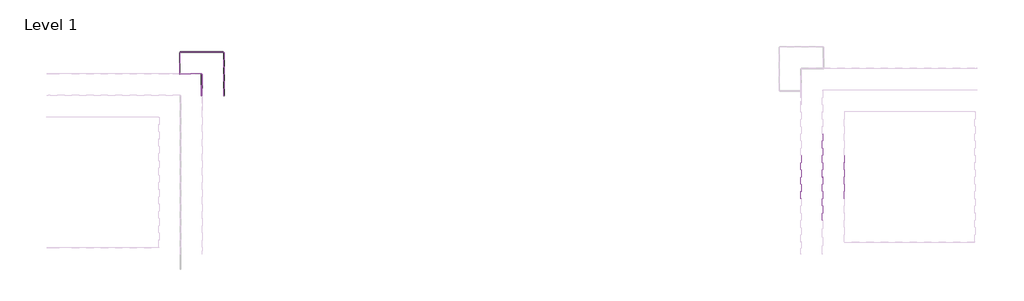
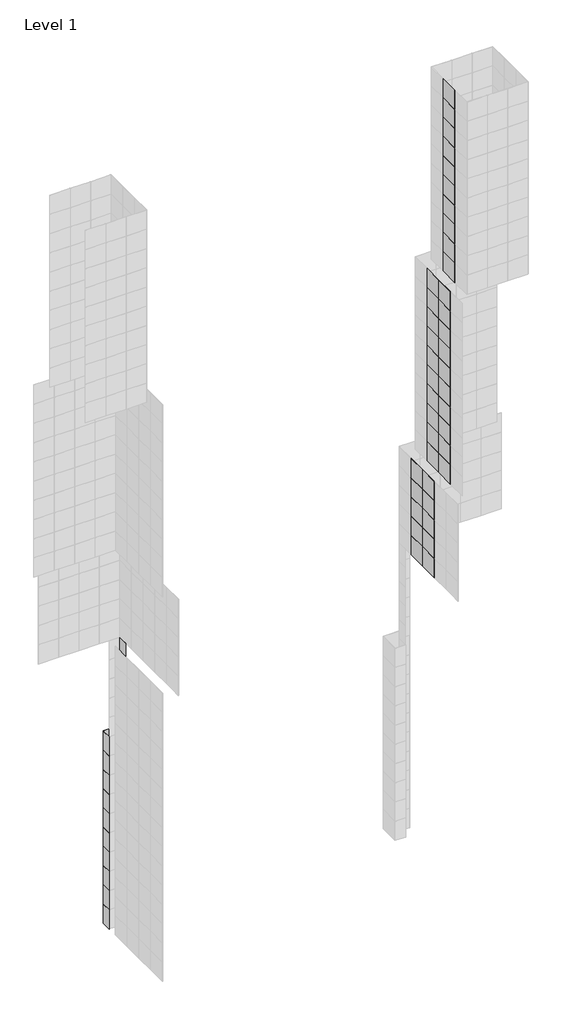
# One storey, part 11 of 15: 135 plates.
"""IFC4 building model written with IfcOpenShell, lengths in millimetres."""

from ifc_helpers import new_model, si_unit, origin, place, context, project, spatial, transform, mapped, element, save
from components import system_panel_glazed_9c75bc08, system_panel_glazed_aa64d645

model = new_model("IFC4")

# Units and contexts
model_context = context("Model", 3, world=origin())
ifc_project = project(units=[si_unit("LENGTHUNIT", "METRE", prefix="MILLI")], contexts=[model_context])

# Site, building, storey
site = spatial("IfcSite", under=ifc_project)
building = spatial("IfcBuilding", under=site)
storey = spatial("IfcBuildingStorey", under=building, Name="Level 1", Elevation=0.0)

# Plates
placement = place(None, origin())
system_panel_glazed_shape = system_panel_glazed_9c75bc08(model_context)
element("IfcPlate", 1, ObjectType="System Panel : Glazed", at=placement, inside=storey, context=model_context, shape_type="MappedRepresentation", body=[
    mapped(system_panel_glazed_shape, transform((-5599.4161695, 8735.9495511, 0.0), x_axis=(0.0, 1.0, 0.0), y_axis=(-1.0, 0.0, 0.0), z_axis=(0.0, 0.0, 1.0))),
])
element("IfcPlate", 2, ObjectType="System Panel : Glazed", at=placement, inside=storey, context=model_context, shape_type="MappedRepresentation", body=[
    mapped(system_panel_glazed_shape, transform((-5599.4161695, 8735.9495511, 3048.0), x_axis=(0.0, 1.0, 0.0), y_axis=(-1.0, 0.0, 0.0), z_axis=(0.0, 0.0, 1.0))),
])
element("IfcPlate", 3, ObjectType="System Panel : Glazed", at=placement, inside=storey, context=model_context, shape_type="MappedRepresentation", body=[
    mapped(system_panel_glazed_shape, transform((-5599.4161695, 8735.9495511, 6096.0), x_axis=(0.0, 1.0, 0.0), y_axis=(-1.0, 0.0, 0.0), z_axis=(0.0, 0.0, 1.0))),
])
element("IfcPlate", 4, ObjectType="System Panel : Glazed", at=placement, inside=storey, context=model_context, shape_type="MappedRepresentation", body=[
    mapped(system_panel_glazed_shape, transform((-5599.4161695, 8735.9495511, 9144.0), x_axis=(0.0, 1.0, 0.0), y_axis=(-1.0, 0.0, 0.0), z_axis=(0.0, 0.0, 1.0))),
])
element("IfcPlate", 5, ObjectType="System Panel : Glazed", at=placement, inside=storey, context=model_context, shape_type="MappedRepresentation", body=[
    mapped(system_panel_glazed_shape, transform((-5599.4161695, 8735.9495511, 12192.0), x_axis=(0.0, 1.0, 0.0), y_axis=(-1.0, 0.0, 0.0), z_axis=(0.0, 0.0, 1.0))),
])
element("IfcPlate", 6, ObjectType="System Panel : Glazed", at=placement, inside=storey, context=model_context, shape_type="MappedRepresentation", body=[
    mapped(system_panel_glazed_shape, transform((-5599.4161695, 8735.9495511, 15240.0), x_axis=(0.0, 1.0, 0.0), y_axis=(-1.0, 0.0, 0.0), z_axis=(0.0, 0.0, 1.0))),
])
element("IfcPlate", 7, ObjectType="System Panel : Glazed", at=placement, inside=storey, context=model_context, shape_type="MappedRepresentation", body=[
    mapped(system_panel_glazed_shape, transform((-5599.4161695, 8735.9495511, 18288.0), x_axis=(0.0, 1.0, 0.0), y_axis=(-1.0, 0.0, 0.0), z_axis=(0.0, 0.0, 1.0))),
])
element("IfcPlate", 8, ObjectType="System Panel : Glazed", at=placement, inside=storey, context=model_context, shape_type="MappedRepresentation", body=[
    mapped(system_panel_glazed_shape, transform((-5599.4161695, 8735.9495511, 21336.0), x_axis=(0.0, 1.0, 0.0), y_axis=(-1.0, 0.0, 0.0), z_axis=(0.0, 0.0, 1.0))),
])
element("IfcPlate", 9, ObjectType="System Panel : Glazed", at=placement, inside=storey, context=model_context, shape_type="MappedRepresentation", body=[
    mapped(system_panel_glazed_shape, transform((-5599.4161695, 8735.9495511, 24384.0), x_axis=(0.0, 1.0, 0.0), y_axis=(-1.0, 0.0, 0.0), z_axis=(0.0, 0.0, 1.0))),
])
element("IfcPlate", 10, ObjectType="System Panel : Glazed", at=placement, inside=storey, context=model_context, shape_type="MappedRepresentation", body=[
    mapped(system_panel_glazed_shape, transform((-5599.4161695, 8735.9495511, 27432.0), x_axis=(0.0, 1.0, 0.0), y_axis=(-1.0, 0.0, 0.0), z_axis=(0.0, 0.0, 1.0))),
])
element("IfcPlate", 11, ObjectType="System Panel : Glazed", at=placement, inside=storey, context=model_context, shape_type="MappedRepresentation", body=[
    mapped(system_panel_glazed_shape, transform((-5599.4161695, 8735.9495511, 30480.0), x_axis=(0.0, 1.0, 0.0), y_axis=(-1.0, 0.0, 0.0), z_axis=(0.0, 0.0, 1.0))),
])
element("IfcPlate", 12, ObjectType="System Panel : Glazed", at=placement, inside=storey, context=model_context, shape_type="MappedRepresentation", body=[
    mapped(system_panel_glazed_shape, transform((-5599.4161695, 8735.9495511, 33528.0), x_axis=(0.0, 1.0, 0.0), y_axis=(-1.0, 0.0, 0.0), z_axis=(0.0, 0.0, 1.0))),
])
element("IfcPlate", 13, ObjectType="System Panel : Glazed", at=placement, inside=storey, context=model_context, shape_type="MappedRepresentation", body=[
    mapped(system_panel_glazed_shape, transform((-5599.4161695, 8735.9495511, 36576.0), x_axis=(0.0, 1.0, 0.0), y_axis=(-1.0, 0.0, 0.0), z_axis=(0.0, 0.0, 1.0))),
])
element("IfcPlate", 14, ObjectType="System Panel : Glazed", at=placement, inside=storey, context=model_context, shape_type="MappedRepresentation", body=[
    mapped(system_panel_glazed_shape, transform((-5599.4161695, 8735.9495511, 39624.0), x_axis=(0.0, 1.0, 0.0), y_axis=(-1.0, 0.0, 0.0), z_axis=(0.0, 0.0, 1.0))),
])
element("IfcPlate", 15, ObjectType="System Panel : Glazed", at=placement, inside=storey, context=model_context, shape_type="MappedRepresentation", body=[
    mapped(system_panel_glazed_shape, transform((-5599.4161695, 8735.9495511, 42672.0), x_axis=(0.0, 1.0, 0.0), y_axis=(-1.0, 0.0, 0.0), z_axis=(0.0, 0.0, 1.0))),
])
element("IfcPlate", 16, ObjectType="System Panel : Glazed", at=placement, inside=storey, context=model_context, shape_type="MappedRepresentation", body=[
    mapped(system_panel_glazed_shape, transform((-6361.4161695, 9497.9495511, 9144.0), x_axis=(-1.0, 0.0, 0.0), y_axis=(0.0, -1.0, 0.0), z_axis=(0.0, 0.0, 1.0))),
])
element("IfcPlate", 17, ObjectType="System Panel : Glazed", at=placement, inside=storey, context=model_context, shape_type="MappedRepresentation", body=[
    mapped(system_panel_glazed_shape, transform((-6361.4161695, 9497.9495511, 12192.0), x_axis=(-1.0, 0.0, 0.0), y_axis=(0.0, -1.0, 0.0), z_axis=(0.0, 0.0, 1.0))),
])
element("IfcPlate", 18, ObjectType="System Panel : Glazed", at=placement, inside=storey, context=model_context, shape_type="MappedRepresentation", body=[
    mapped(system_panel_glazed_shape, transform((-6361.4161695, 9497.9495511, 15240.0), x_axis=(-1.0, 0.0, 0.0), y_axis=(0.0, -1.0, 0.0), z_axis=(0.0, 0.0, 1.0))),
])
element("IfcPlate", 19, ObjectType="System Panel : Glazed", at=placement, inside=storey, context=model_context, shape_type="MappedRepresentation", body=[
    mapped(system_panel_glazed_shape, transform((-6361.4161695, 9497.9495511, 18288.0), x_axis=(-1.0, 0.0, 0.0), y_axis=(0.0, -1.0, 0.0), z_axis=(0.0, 0.0, 1.0))),
])
element("IfcPlate", 20, ObjectType="System Panel : Glazed", at=placement, inside=storey, context=model_context, shape_type="MappedRepresentation", body=[
    mapped(system_panel_glazed_shape, transform((-6361.4161695, 9497.9495511, 21336.0), x_axis=(-1.0, 0.0, 0.0), y_axis=(0.0, -1.0, 0.0), z_axis=(0.0, 0.0, 1.0))),
])
element("IfcPlate", 21, ObjectType="System Panel : Glazed", at=placement, inside=storey, context=model_context, shape_type="MappedRepresentation", body=[
    mapped(system_panel_glazed_shape, transform((-6361.4161695, 9497.9495511, 24384.0), x_axis=(-1.0, 0.0, 0.0), y_axis=(0.0, -1.0, 0.0), z_axis=(0.0, 0.0, 1.0))),
])
element("IfcPlate", 22, ObjectType="System Panel : Glazed", at=placement, inside=storey, context=model_context, shape_type="MappedRepresentation", body=[
    mapped(system_panel_glazed_shape, transform((-6361.4161695, 9497.9495511, 27432.0), x_axis=(-1.0, 0.0, 0.0), y_axis=(0.0, -1.0, 0.0), z_axis=(0.0, 0.0, 1.0))),
])
element("IfcPlate", 23, ObjectType="System Panel : Glazed", at=placement, inside=storey, context=model_context, shape_type="MappedRepresentation", body=[
    mapped(system_panel_glazed_shape, transform((-6361.4161695, 9497.9495511, 30480.0), x_axis=(-1.0, 0.0, 0.0), y_axis=(0.0, -1.0, 0.0), z_axis=(0.0, 0.0, 1.0))),
])
element("IfcPlate", 24, ObjectType="System Panel : Glazed", at=placement, inside=storey, context=model_context, shape_type="MappedRepresentation", body=[
    mapped(system_panel_glazed_shape, transform((-6361.4161695, 9497.9495511, 33528.0), x_axis=(-1.0, 0.0, 0.0), y_axis=(0.0, -1.0, 0.0), z_axis=(0.0, 0.0, 1.0))),
])
element("IfcPlate", 25, ObjectType="System Panel : Glazed", at=placement, inside=storey, context=model_context, shape_type="MappedRepresentation", body=[
    mapped(system_panel_glazed_shape, transform((-6361.4161695, 9497.9495511, 36576.0), x_axis=(-1.0, 0.0, 0.0), y_axis=(0.0, -1.0, 0.0), z_axis=(0.0, 0.0, 1.0))),
])
element("IfcPlate", 26, ObjectType="System Panel : Glazed", at=placement, inside=storey, context=model_context, shape_type="MappedRepresentation", body=[
    mapped(system_panel_glazed_shape, transform((-6361.4161695, 9497.9495511, 39624.0), x_axis=(-1.0, 0.0, 0.0), y_axis=(0.0, -1.0, 0.0), z_axis=(0.0, 0.0, 1.0))),
])
element("IfcPlate", 27, ObjectType="System Panel : Glazed", at=placement, inside=storey, context=model_context, shape_type="MappedRepresentation", body=[
    mapped(system_panel_glazed_shape, transform((-6361.4161695, 9497.9495511, 42672.0), x_axis=(-1.0, 0.0, 0.0), y_axis=(0.0, -1.0, 0.0), z_axis=(0.0, 0.0, 1.0))),
])
element("IfcPlate", 28, ObjectType="System Panel : Glazed", at=placement, inside=storey, context=model_context, shape_type="MappedRepresentation", body=[
    mapped(system_panel_glazed_shape, transform((-5599.4161695, 8735.9495511, 0.0), x_axis=(0.0, -1.0, 0.0), y_axis=(1.0, 0.0, 0.0), z_axis=(0.0, 0.0, 1.0))),
])
element("IfcPlate", 29, ObjectType="System Panel : Glazed", at=placement, inside=storey, context=model_context, shape_type="MappedRepresentation", body=[
    mapped(system_panel_glazed_shape, transform((-5599.4161695, 8735.9495511, 3048.0), x_axis=(0.0, -1.0, 0.0), y_axis=(1.0, 0.0, 0.0), z_axis=(0.0, 0.0, 1.0))),
])
element("IfcPlate", 30, ObjectType="System Panel : Glazed", at=placement, inside=storey, context=model_context, shape_type="MappedRepresentation", body=[
    mapped(system_panel_glazed_shape, transform((-5599.4161695, 8735.9495511, 6096.0), x_axis=(0.0, -1.0, 0.0), y_axis=(1.0, 0.0, 0.0), z_axis=(0.0, 0.0, 1.0))),
])
element("IfcPlate", 31, ObjectType="System Panel : Glazed", at=placement, inside=storey, context=model_context, shape_type="MappedRepresentation", body=[
    mapped(system_panel_glazed_shape, transform((-5599.4161695, 8735.9495511, 9144.0), x_axis=(0.0, -1.0, 0.0), y_axis=(1.0, 0.0, 0.0), z_axis=(0.0, 0.0, 1.0))),
])
element("IfcPlate", 32, ObjectType="System Panel : Glazed", at=placement, inside=storey, context=model_context, shape_type="MappedRepresentation", body=[
    mapped(system_panel_glazed_shape, transform((-5599.4161695, 8735.9495511, 12192.0), x_axis=(0.0, -1.0, 0.0), y_axis=(1.0, 0.0, 0.0), z_axis=(0.0, 0.0, 1.0))),
])
element("IfcPlate", 33, ObjectType="System Panel : Glazed", at=placement, inside=storey, context=model_context, shape_type="MappedRepresentation", body=[
    mapped(system_panel_glazed_shape, transform((-5599.4161695, 8735.9495511, 15240.0), x_axis=(0.0, -1.0, 0.0), y_axis=(1.0, 0.0, 0.0), z_axis=(0.0, 0.0, 1.0))),
])
element("IfcPlate", 34, ObjectType="System Panel : Glazed", at=placement, inside=storey, context=model_context, shape_type="MappedRepresentation", body=[
    mapped(system_panel_glazed_shape, transform((-5599.4161695, 8735.9495511, 18288.0), x_axis=(0.0, -1.0, 0.0), y_axis=(1.0, 0.0, 0.0), z_axis=(0.0, 0.0, 1.0))),
])
element("IfcPlate", 35, ObjectType="System Panel : Glazed", at=placement, inside=storey, context=model_context, shape_type="MappedRepresentation", body=[
    mapped(system_panel_glazed_shape, transform((-5599.4161695, 8735.9495511, 21336.0), x_axis=(0.0, -1.0, 0.0), y_axis=(1.0, 0.0, 0.0), z_axis=(0.0, 0.0, 1.0))),
])
element("IfcPlate", 36, ObjectType="System Panel : Glazed", at=placement, inside=storey, context=model_context, shape_type="MappedRepresentation", body=[
    mapped(system_panel_glazed_shape, transform((-5599.4161695, 8735.9495511, 24384.0), x_axis=(0.0, -1.0, 0.0), y_axis=(1.0, 0.0, 0.0), z_axis=(0.0, 0.0, 1.0))),
])
element("IfcPlate", 37, ObjectType="System Panel : Glazed", at=placement, inside=storey, context=model_context, shape_type="MappedRepresentation", body=[
    mapped(system_panel_glazed_shape, transform((-5599.4161695, 8735.9495511, 27432.0), x_axis=(0.0, -1.0, 0.0), y_axis=(1.0, 0.0, 0.0), z_axis=(0.0, 0.0, 1.0))),
])
element("IfcPlate", 38, ObjectType="System Panel : Glazed", at=placement, inside=storey, context=model_context, shape_type="MappedRepresentation", body=[
    mapped(system_panel_glazed_shape, transform((-7123.4161695, 10259.9495511, 0.0), x_axis=(0.0, -1.0, 0.0), y_axis=(1.0, 0.0, 0.0), z_axis=(0.0, 0.0, 1.0))),
])
element("IfcPlate", 39, ObjectType="System Panel : Glazed", at=placement, inside=storey, context=model_context, shape_type="MappedRepresentation", body=[
    mapped(system_panel_glazed_shape, transform((-7123.4161695, 10259.9495511, 3048.0), x_axis=(0.0, -1.0, 0.0), y_axis=(1.0, 0.0, 0.0), z_axis=(0.0, 0.0, 1.0))),
])
element("IfcPlate", 40, ObjectType="System Panel : Glazed", at=placement, inside=storey, context=model_context, shape_type="MappedRepresentation", body=[
    mapped(system_panel_glazed_shape, transform((-7123.4161695, 10259.9495511, 6096.0), x_axis=(0.0, -1.0, 0.0), y_axis=(1.0, 0.0, 0.0), z_axis=(0.0, 0.0, 1.0))),
])
element("IfcPlate", 41, ObjectType="System Panel : Glazed", at=placement, inside=storey, context=model_context, shape_type="MappedRepresentation", body=[
    mapped(system_panel_glazed_shape, transform((-7123.4161695, 10259.9495511, 9144.0), x_axis=(0.0, -1.0, 0.0), y_axis=(1.0, 0.0, 0.0), z_axis=(0.0, 0.0, 1.0))),
])
element("IfcPlate", 42, ObjectType="System Panel : Glazed", at=placement, inside=storey, context=model_context, shape_type="MappedRepresentation", body=[
    mapped(system_panel_glazed_shape, transform((-7123.4161695, 10259.9495511, 12192.0), x_axis=(0.0, -1.0, 0.0), y_axis=(1.0, 0.0, 0.0), z_axis=(0.0, 0.0, 1.0))),
])
element("IfcPlate", 43, ObjectType="System Panel : Glazed", at=placement, inside=storey, context=model_context, shape_type="MappedRepresentation", body=[
    mapped(system_panel_glazed_shape, transform((-7123.4161695, 10259.9495511, 15240.0), x_axis=(0.0, -1.0, 0.0), y_axis=(1.0, 0.0, 0.0), z_axis=(0.0, 0.0, 1.0))),
])
element("IfcPlate", 44, ObjectType="System Panel : Glazed", at=placement, inside=storey, context=model_context, shape_type="MappedRepresentation", body=[
    mapped(system_panel_glazed_shape, transform((-7123.4161695, 10259.9495511, 18288.0), x_axis=(0.0, -1.0, 0.0), y_axis=(1.0, 0.0, 0.0), z_axis=(0.0, 0.0, 1.0))),
])
element("IfcPlate", 45, ObjectType="System Panel : Glazed", at=placement, inside=storey, context=model_context, shape_type="MappedRepresentation", body=[
    mapped(system_panel_glazed_shape, transform((-7123.4161695, 10259.9495511, 21336.0), x_axis=(0.0, -1.0, 0.0), y_axis=(1.0, 0.0, 0.0), z_axis=(0.0, 0.0, 1.0))),
])
element("IfcPlate", 46, ObjectType="System Panel : Glazed", at=placement, inside=storey, context=model_context, shape_type="MappedRepresentation", body=[
    mapped(system_panel_glazed_shape, transform((-7123.4161695, 10259.9495511, 24384.0), x_axis=(0.0, -1.0, 0.0), y_axis=(1.0, 0.0, 0.0), z_axis=(0.0, 0.0, 1.0))),
])
element("IfcPlate", 47, ObjectType="System Panel : Glazed", at=placement, inside=storey, context=model_context, shape_type="MappedRepresentation", body=[
    mapped(system_panel_glazed_shape, transform((-7123.4161695, 10259.9495511, 27432.0), x_axis=(0.0, -1.0, 0.0), y_axis=(1.0, 0.0, 0.0), z_axis=(0.0, 0.0, 1.0))),
])
system_panel_glazed_2_shape = system_panel_glazed_aa64d645(model_context)
element("IfcPlate", 48, ObjectType="System Panel : Glazed", at=placement, inside=storey, context=model_context, shape_type="MappedRepresentation", body=[
    mapped(system_panel_glazed_2_shape, transform((-5599.4161695, 11021.9495511, 0.0), x_axis=(-1.0, 0.0, 0.0), y_axis=(0.0, -1.0, 0.0), z_axis=(0.0, 0.0, 1.0))),
])
element("IfcPlate", 49, ObjectType="System Panel : Glazed", at=placement, inside=storey, context=model_context, shape_type="MappedRepresentation", body=[
    mapped(system_panel_glazed_2_shape, transform((-5599.4161695, 11021.9495511, 3048.0), x_axis=(-1.0, 0.0, 0.0), y_axis=(0.0, -1.0, 0.0), z_axis=(0.0, 0.0, 1.0))),
])
element("IfcPlate", 50, ObjectType="System Panel : Glazed", at=placement, inside=storey, context=model_context, shape_type="MappedRepresentation", body=[
    mapped(system_panel_glazed_2_shape, transform((-5599.4161695, 11021.9495511, 6096.0), x_axis=(-1.0, 0.0, 0.0), y_axis=(0.0, -1.0, 0.0), z_axis=(0.0, 0.0, 1.0))),
])
element("IfcPlate", 51, ObjectType="System Panel : Glazed", at=placement, inside=storey, context=model_context, shape_type="MappedRepresentation", body=[
    mapped(system_panel_glazed_2_shape, transform((-5599.4161695, 11021.9495511, 9144.0), x_axis=(-1.0, 0.0, 0.0), y_axis=(0.0, -1.0, 0.0), z_axis=(0.0, 0.0, 1.0))),
])
element("IfcPlate", 52, ObjectType="System Panel : Glazed", at=placement, inside=storey, context=model_context, shape_type="MappedRepresentation", body=[
    mapped(system_panel_glazed_2_shape, transform((-5599.4161695, 11021.9495511, 12192.0), x_axis=(-1.0, 0.0, 0.0), y_axis=(0.0, -1.0, 0.0), z_axis=(0.0, 0.0, 1.0))),
])
element("IfcPlate", 53, ObjectType="System Panel : Glazed", at=placement, inside=storey, context=model_context, shape_type="MappedRepresentation", body=[
    mapped(system_panel_glazed_2_shape, transform((-5599.4161695, 11021.9495511, 15240.0), x_axis=(-1.0, 0.0, 0.0), y_axis=(0.0, -1.0, 0.0), z_axis=(0.0, 0.0, 1.0))),
])
element("IfcPlate", 54, ObjectType="System Panel : Glazed", at=placement, inside=storey, context=model_context, shape_type="MappedRepresentation", body=[
    mapped(system_panel_glazed_2_shape, transform((-5599.4161695, 11021.9495511, 18288.0), x_axis=(-1.0, 0.0, 0.0), y_axis=(0.0, -1.0, 0.0), z_axis=(0.0, 0.0, 1.0))),
])
element("IfcPlate", 55, ObjectType="System Panel : Glazed", at=placement, inside=storey, context=model_context, shape_type="MappedRepresentation", body=[
    mapped(system_panel_glazed_2_shape, transform((-5599.4161695, 11021.9495511, 21336.0), x_axis=(-1.0, 0.0, 0.0), y_axis=(0.0, -1.0, 0.0), z_axis=(0.0, 0.0, 1.0))),
])
element("IfcPlate", 56, ObjectType="System Panel : Glazed", at=placement, inside=storey, context=model_context, shape_type="MappedRepresentation", body=[
    mapped(system_panel_glazed_2_shape, transform((-5599.4161695, 11021.9495511, 24384.0), x_axis=(-1.0, 0.0, 0.0), y_axis=(0.0, -1.0, 0.0), z_axis=(0.0, 0.0, 1.0))),
])
element("IfcPlate", 57, ObjectType="System Panel : Glazed", at=placement, inside=storey, context=model_context, shape_type="MappedRepresentation", body=[
    mapped(system_panel_glazed_2_shape, transform((-5599.4161695, 11021.9495511, 27432.0), x_axis=(-1.0, 0.0, 0.0), y_axis=(0.0, -1.0, 0.0), z_axis=(0.0, 0.0, 1.0))),
])
element("IfcPlate", 58, ObjectType="System Panel : Glazed", at=placement, inside=storey, context=model_context, shape_type="MappedRepresentation", body=[
    mapped(system_panel_glazed_2_shape, transform((-5599.4161695, 11021.9495511, 0.0), x_axis=(-1.0, 0.0, 0.0), y_axis=(0.0, -1.0, 0.0), z_axis=(0.0, 0.0, 1.0))),
])
element("IfcPlate", 59, ObjectType="System Panel : Glazed", at=placement, inside=storey, context=model_context, shape_type="MappedRepresentation", body=[
    mapped(system_panel_glazed_2_shape, transform((-5599.4161695, 11021.9495511, 3048.0), x_axis=(-1.0, 0.0, 0.0), y_axis=(0.0, -1.0, 0.0), z_axis=(0.0, 0.0, 1.0))),
])
element("IfcPlate", 60, ObjectType="System Panel : Glazed", at=placement, inside=storey, context=model_context, shape_type="MappedRepresentation", body=[
    mapped(system_panel_glazed_2_shape, transform((-5599.4161695, 11021.9495511, 6096.0), x_axis=(-1.0, 0.0, 0.0), y_axis=(0.0, -1.0, 0.0), z_axis=(0.0, 0.0, 1.0))),
])
element("IfcPlate", 61, ObjectType="System Panel : Glazed", at=placement, inside=storey, context=model_context, shape_type="MappedRepresentation", body=[
    mapped(system_panel_glazed_2_shape, transform((-5599.4161695, 11021.9495511, 9144.0), x_axis=(-1.0, 0.0, 0.0), y_axis=(0.0, -1.0, 0.0), z_axis=(0.0, 0.0, 1.0))),
])
element("IfcPlate", 62, ObjectType="System Panel : Glazed", at=placement, inside=storey, context=model_context, shape_type="MappedRepresentation", body=[
    mapped(system_panel_glazed_2_shape, transform((-5599.4161695, 11021.9495511, 12192.0), x_axis=(-1.0, 0.0, 0.0), y_axis=(0.0, -1.0, 0.0), z_axis=(0.0, 0.0, 1.0))),
])
element("IfcPlate", 63, ObjectType="System Panel : Glazed", at=placement, inside=storey, context=model_context, shape_type="MappedRepresentation", body=[
    mapped(system_panel_glazed_2_shape, transform((-5599.4161695, 11021.9495511, 15240.0), x_axis=(-1.0, 0.0, 0.0), y_axis=(0.0, -1.0, 0.0), z_axis=(0.0, 0.0, 1.0))),
])
element("IfcPlate", 64, ObjectType="System Panel : Glazed", at=placement, inside=storey, context=model_context, shape_type="MappedRepresentation", body=[
    mapped(system_panel_glazed_2_shape, transform((-5599.4161695, 11021.9495511, 18288.0), x_axis=(-1.0, 0.0, 0.0), y_axis=(0.0, -1.0, 0.0), z_axis=(0.0, 0.0, 1.0))),
])
element("IfcPlate", 65, ObjectType="System Panel : Glazed", at=placement, inside=storey, context=model_context, shape_type="MappedRepresentation", body=[
    mapped(system_panel_glazed_2_shape, transform((-5599.4161695, 11021.9495511, 21336.0), x_axis=(-1.0, 0.0, 0.0), y_axis=(0.0, -1.0, 0.0), z_axis=(0.0, 0.0, 1.0))),
])
element("IfcPlate", 66, ObjectType="System Panel : Glazed", at=placement, inside=storey, context=model_context, shape_type="MappedRepresentation", body=[
    mapped(system_panel_glazed_2_shape, transform((-5599.4161695, 11021.9495511, 24384.0), x_axis=(-1.0, 0.0, 0.0), y_axis=(0.0, -1.0, 0.0), z_axis=(0.0, 0.0, 1.0))),
])
element("IfcPlate", 67, ObjectType="System Panel : Glazed", at=placement, inside=storey, context=model_context, shape_type="MappedRepresentation", body=[
    mapped(system_panel_glazed_2_shape, transform((-5599.4161695, 11021.9495511, 27432.0), x_axis=(-1.0, 0.0, 0.0), y_axis=(0.0, -1.0, 0.0), z_axis=(0.0, 0.0, 1.0))),
])
element("IfcPlate", 68, ObjectType="System Panel : Glazed", at=placement, inside=storey, context=model_context, shape_type="MappedRepresentation", body=[
    mapped(system_panel_glazed_2_shape, transform((-4075.4161695, 9497.9495511, 0.0), x_axis=(0.0, 1.0, 0.0), y_axis=(-1.0, 0.0, 0.0), z_axis=(0.0, 0.0, 1.0))),
])
element("IfcPlate", 69, ObjectType="System Panel : Glazed", at=placement, inside=storey, context=model_context, shape_type="MappedRepresentation", body=[
    mapped(system_panel_glazed_2_shape, transform((-4075.4161695, 9497.9495511, 3048.0), x_axis=(0.0, 1.0, 0.0), y_axis=(-1.0, 0.0, 0.0), z_axis=(0.0, 0.0, 1.0))),
])
element("IfcPlate", 70, ObjectType="System Panel : Glazed", at=placement, inside=storey, context=model_context, shape_type="MappedRepresentation", body=[
    mapped(system_panel_glazed_2_shape, transform((-4075.4161695, 9497.9495511, 6096.0), x_axis=(0.0, 1.0, 0.0), y_axis=(-1.0, 0.0, 0.0), z_axis=(0.0, 0.0, 1.0))),
])
element("IfcPlate", 71, ObjectType="System Panel : Glazed", at=placement, inside=storey, context=model_context, shape_type="MappedRepresentation", body=[
    mapped(system_panel_glazed_2_shape, transform((-4075.4161695, 9497.9495511, 9144.0), x_axis=(0.0, 1.0, 0.0), y_axis=(-1.0, 0.0, 0.0), z_axis=(0.0, 0.0, 1.0))),
])
element("IfcPlate", 72, ObjectType="System Panel : Glazed", at=placement, inside=storey, context=model_context, shape_type="MappedRepresentation", body=[
    mapped(system_panel_glazed_2_shape, transform((-4075.4161695, 9497.9495511, 12192.0), x_axis=(0.0, 1.0, 0.0), y_axis=(-1.0, 0.0, 0.0), z_axis=(0.0, 0.0, 1.0))),
])
element("IfcPlate", 73, ObjectType="System Panel : Glazed", at=placement, inside=storey, context=model_context, shape_type="MappedRepresentation", body=[
    mapped(system_panel_glazed_2_shape, transform((-4075.4161695, 9497.9495511, 15240.0), x_axis=(0.0, 1.0, 0.0), y_axis=(-1.0, 0.0, 0.0), z_axis=(0.0, 0.0, 1.0))),
])
element("IfcPlate", 74, ObjectType="System Panel : Glazed", at=placement, inside=storey, context=model_context, shape_type="MappedRepresentation", body=[
    mapped(system_panel_glazed_2_shape, transform((-4075.4161695, 9497.9495511, 18288.0), x_axis=(0.0, 1.0, 0.0), y_axis=(-1.0, 0.0, 0.0), z_axis=(0.0, 0.0, 1.0))),
])
element("IfcPlate", 75, ObjectType="System Panel : Glazed", at=placement, inside=storey, context=model_context, shape_type="MappedRepresentation", body=[
    mapped(system_panel_glazed_2_shape, transform((-4075.4161695, 9497.9495511, 21336.0), x_axis=(0.0, 1.0, 0.0), y_axis=(-1.0, 0.0, 0.0), z_axis=(0.0, 0.0, 1.0))),
])
element("IfcPlate", 76, ObjectType="System Panel : Glazed", at=placement, inside=storey, context=model_context, shape_type="MappedRepresentation", body=[
    mapped(system_panel_glazed_2_shape, transform((-4075.4161695, 9497.9495511, 24384.0), x_axis=(0.0, 1.0, 0.0), y_axis=(-1.0, 0.0, 0.0), z_axis=(0.0, 0.0, 1.0))),
])
element("IfcPlate", 77, ObjectType="System Panel : Glazed", at=placement, inside=storey, context=model_context, shape_type="MappedRepresentation", body=[
    mapped(system_panel_glazed_2_shape, transform((-4075.4161695, 9497.9495511, 27432.0), x_axis=(0.0, 1.0, 0.0), y_axis=(-1.0, 0.0, 0.0), z_axis=(0.0, 0.0, 1.0))),
])
element("IfcPlate", 78, ObjectType="System Panel : Glazed", at=placement, inside=storey, context=model_context, shape_type="MappedRepresentation", body=[
    mapped(system_panel_glazed_2_shape, transform((-5599.4161695, 11021.9495511, 0.0), x_axis=(-1.0, 0.0, 0.0), y_axis=(0.0, -1.0, 0.0), z_axis=(0.0, 0.0, 1.0))),
])
element("IfcPlate", 79, ObjectType="System Panel : Glazed", at=placement, inside=storey, context=model_context, shape_type="MappedRepresentation", body=[
    mapped(system_panel_glazed_2_shape, transform((-5599.4161695, 11021.9495511, 3048.0), x_axis=(-1.0, 0.0, 0.0), y_axis=(0.0, -1.0, 0.0), z_axis=(0.0, 0.0, 1.0))),
])
element("IfcPlate", 80, ObjectType="System Panel : Glazed", at=placement, inside=storey, context=model_context, shape_type="MappedRepresentation", body=[
    mapped(system_panel_glazed_2_shape, transform((-5599.4161695, 11021.9495511, 6096.0), x_axis=(-1.0, 0.0, 0.0), y_axis=(0.0, -1.0, 0.0), z_axis=(0.0, 0.0, 1.0))),
])
element("IfcPlate", 81, ObjectType="System Panel : Glazed", at=placement, inside=storey, context=model_context, shape_type="MappedRepresentation", body=[
    mapped(system_panel_glazed_2_shape, transform((-5599.4161695, 11021.9495511, 9144.0), x_axis=(-1.0, 0.0, 0.0), y_axis=(0.0, -1.0, 0.0), z_axis=(0.0, 0.0, 1.0))),
])
element("IfcPlate", 82, ObjectType="System Panel : Glazed", at=placement, inside=storey, context=model_context, shape_type="MappedRepresentation", body=[
    mapped(system_panel_glazed_2_shape, transform((-5599.4161695, 11021.9495511, 12192.0), x_axis=(-1.0, 0.0, 0.0), y_axis=(0.0, -1.0, 0.0), z_axis=(0.0, 0.0, 1.0))),
])
element("IfcPlate", 83, ObjectType="System Panel : Glazed", at=placement, inside=storey, context=model_context, shape_type="MappedRepresentation", body=[
    mapped(system_panel_glazed_2_shape, transform((-5599.4161695, 11021.9495511, 15240.0), x_axis=(-1.0, 0.0, 0.0), y_axis=(0.0, -1.0, 0.0), z_axis=(0.0, 0.0, 1.0))),
])
element("IfcPlate", 84, ObjectType="System Panel : Glazed", at=placement, inside=storey, context=model_context, shape_type="MappedRepresentation", body=[
    mapped(system_panel_glazed_2_shape, transform((-5599.4161695, 11021.9495511, 18288.0), x_axis=(-1.0, 0.0, 0.0), y_axis=(0.0, -1.0, 0.0), z_axis=(0.0, 0.0, 1.0))),
])
element("IfcPlate", 85, ObjectType="System Panel : Glazed", at=placement, inside=storey, context=model_context, shape_type="MappedRepresentation", body=[
    mapped(system_panel_glazed_2_shape, transform((-5599.4161695, 11021.9495511, 21336.0), x_axis=(-1.0, 0.0, 0.0), y_axis=(0.0, -1.0, 0.0), z_axis=(0.0, 0.0, 1.0))),
])
element("IfcPlate", 86, ObjectType="System Panel : Glazed", at=placement, inside=storey, context=model_context, shape_type="MappedRepresentation", body=[
    mapped(system_panel_glazed_2_shape, transform((-5599.4161695, 11021.9495511, 24384.0), x_axis=(-1.0, 0.0, 0.0), y_axis=(0.0, -1.0, 0.0), z_axis=(0.0, 0.0, 1.0))),
])
element("IfcPlate", 87, ObjectType="System Panel : Glazed", at=placement, inside=storey, context=model_context, shape_type="MappedRepresentation", body=[
    mapped(system_panel_glazed_2_shape, transform((-5599.4161695, 11021.9495511, 27432.0), x_axis=(-1.0, 0.0, 0.0), y_axis=(0.0, -1.0, 0.0), z_axis=(0.0, 0.0, 1.0))),
])
element("IfcPlate", 88, ObjectType="System Panel : Glazed", at=placement, inside=storey, context=model_context, shape_type="MappedRepresentation", body=[
    mapped(system_panel_glazed_2_shape, transform((36594.2903978, 5303.0904402, 45720.0), x_axis=(0.0, -1.0, 0.0), y_axis=(1.0, 0.0, 0.0), z_axis=(0.0, 0.0, 1.0))),
])
element("IfcPlate", 89, ObjectType="System Panel : Glazed", at=placement, inside=storey, context=model_context, shape_type="MappedRepresentation", body=[
    mapped(system_panel_glazed_2_shape, transform((36594.2903978, 2255.0904402, 45720.0), x_axis=(0.0, -1.0, 0.0), y_axis=(1.0, 0.0, 0.0), z_axis=(0.0, 0.0, 1.0))),
])
element("IfcPlate", 90, ObjectType="System Panel : Glazed", at=placement, inside=storey, context=model_context, shape_type="MappedRepresentation", body=[
    mapped(system_panel_glazed_2_shape, transform((36594.2903978, 5303.0904402, 48768.0), x_axis=(0.0, -1.0, 0.0), y_axis=(1.0, 0.0, 0.0), z_axis=(0.0, 0.0, 1.0))),
])
element("IfcPlate", 91, ObjectType="System Panel : Glazed", at=placement, inside=storey, context=model_context, shape_type="MappedRepresentation", body=[
    mapped(system_panel_glazed_2_shape, transform((36594.2903978, 2255.0904402, 48768.0), x_axis=(0.0, -1.0, 0.0), y_axis=(1.0, 0.0, 0.0), z_axis=(0.0, 0.0, 1.0))),
])
element("IfcPlate", 92, ObjectType="System Panel : Glazed", at=placement, inside=storey, context=model_context, shape_type="MappedRepresentation", body=[
    mapped(system_panel_glazed_2_shape, transform((36594.2903978, 5303.0904402, 51816.0), x_axis=(0.0, -1.0, 0.0), y_axis=(1.0, 0.0, 0.0), z_axis=(0.0, 0.0, 1.0))),
])
element("IfcPlate", 93, ObjectType="System Panel : Glazed", at=placement, inside=storey, context=model_context, shape_type="MappedRepresentation", body=[
    mapped(system_panel_glazed_2_shape, transform((36594.2903978, 2255.0904402, 51816.0), x_axis=(0.0, -1.0, 0.0), y_axis=(1.0, 0.0, 0.0), z_axis=(0.0, 0.0, 1.0))),
])
element("IfcPlate", 94, ObjectType="System Panel : Glazed", at=placement, inside=storey, context=model_context, shape_type="MappedRepresentation", body=[
    mapped(system_panel_glazed_2_shape, transform((36594.2903978, 5303.0904402, 54864.0), x_axis=(0.0, -1.0, 0.0), y_axis=(1.0, 0.0, 0.0), z_axis=(0.0, 0.0, 1.0))),
])
element("IfcPlate", 95, ObjectType="System Panel : Glazed", at=placement, inside=storey, context=model_context, shape_type="MappedRepresentation", body=[
    mapped(system_panel_glazed_2_shape, transform((36594.2903978, 2255.0904402, 54864.0), x_axis=(0.0, -1.0, 0.0), y_axis=(1.0, 0.0, 0.0), z_axis=(0.0, 0.0, 1.0))),
])
element("IfcPlate", 96, ObjectType="System Panel : Glazed", at=placement, inside=storey, context=model_context, shape_type="MappedRepresentation", body=[
    mapped(system_panel_glazed_2_shape, transform((36594.2903978, 5303.0904402, 57912.0), x_axis=(0.0, -1.0, 0.0), y_axis=(1.0, 0.0, 0.0), z_axis=(0.0, 0.0, 1.0))),
])
element("IfcPlate", 97, ObjectType="System Panel : Glazed", at=placement, inside=storey, context=model_context, shape_type="MappedRepresentation", body=[
    mapped(system_panel_glazed_2_shape, transform((36594.2903978, 2255.0904402, 57912.0), x_axis=(0.0, -1.0, 0.0), y_axis=(1.0, 0.0, 0.0), z_axis=(0.0, 0.0, 1.0))),
])
element("IfcPlate", 98, ObjectType="System Panel : Glazed", at=placement, inside=storey, context=model_context, shape_type="MappedRepresentation", body=[
    mapped(system_panel_glazed_2_shape, transform((38118.2903978, 3779.0904402, 60960.0), x_axis=(0.0, -1.0, 0.0), y_axis=(1.0, 0.0, 0.0), z_axis=(0.0, 0.0, 1.0))),
])
element("IfcPlate", 99, ObjectType="System Panel : Glazed", at=placement, inside=storey, context=model_context, shape_type="MappedRepresentation", body=[
    mapped(system_panel_glazed_2_shape, transform((38118.2903978, 731.0904402, 60960.0), x_axis=(0.0, -1.0, 0.0), y_axis=(1.0, 0.0, 0.0), z_axis=(0.0, 0.0, 1.0))),
])
element("IfcPlate", 100, ObjectType="System Panel : Glazed", at=placement, inside=storey, context=model_context, shape_type="MappedRepresentation", body=[
    mapped(system_panel_glazed_2_shape, transform((38118.2903978, 3779.0904402, 64008.0), x_axis=(0.0, -1.0, 0.0), y_axis=(1.0, 0.0, 0.0), z_axis=(0.0, 0.0, 1.0))),
])
element("IfcPlate", 101, ObjectType="System Panel : Glazed", at=placement, inside=storey, context=model_context, shape_type="MappedRepresentation", body=[
    mapped(system_panel_glazed_2_shape, transform((38118.2903978, 731.0904402, 64008.0), x_axis=(0.0, -1.0, 0.0), y_axis=(1.0, 0.0, 0.0), z_axis=(0.0, 0.0, 1.0))),
])
element("IfcPlate", 102, ObjectType="System Panel : Glazed", at=placement, inside=storey, context=model_context, shape_type="MappedRepresentation", body=[
    mapped(system_panel_glazed_2_shape, transform((38118.2903978, 3779.0904402, 67056.0), x_axis=(0.0, -1.0, 0.0), y_axis=(1.0, 0.0, 0.0), z_axis=(0.0, 0.0, 1.0))),
])
element("IfcPlate", 103, ObjectType="System Panel : Glazed", at=placement, inside=storey, context=model_context, shape_type="MappedRepresentation", body=[
    mapped(system_panel_glazed_2_shape, transform((38118.2903978, 731.0904402, 67056.0), x_axis=(0.0, -1.0, 0.0), y_axis=(1.0, 0.0, 0.0), z_axis=(0.0, 0.0, 1.0))),
])
element("IfcPlate", 104, ObjectType="System Panel : Glazed", at=placement, inside=storey, context=model_context, shape_type="MappedRepresentation", body=[
    mapped(system_panel_glazed_2_shape, transform((38118.2903978, 3779.0904402, 70104.0), x_axis=(0.0, -1.0, 0.0), y_axis=(1.0, 0.0, 0.0), z_axis=(0.0, 0.0, 1.0))),
])
element("IfcPlate", 105, ObjectType="System Panel : Glazed", at=placement, inside=storey, context=model_context, shape_type="MappedRepresentation", body=[
    mapped(system_panel_glazed_2_shape, transform((38118.2903978, 731.0904402, 70104.0), x_axis=(0.0, -1.0, 0.0), y_axis=(1.0, 0.0, 0.0), z_axis=(0.0, 0.0, 1.0))),
])
element("IfcPlate", 106, ObjectType="System Panel : Glazed", at=placement, inside=storey, context=model_context, shape_type="MappedRepresentation", body=[
    mapped(system_panel_glazed_2_shape, transform((38118.2903978, 3779.0904402, 73152.0), x_axis=(0.0, -1.0, 0.0), y_axis=(1.0, 0.0, 0.0), z_axis=(0.0, 0.0, 1.0))),
])
element("IfcPlate", 107, ObjectType="System Panel : Glazed", at=placement, inside=storey, context=model_context, shape_type="MappedRepresentation", body=[
    mapped(system_panel_glazed_2_shape, transform((38118.2903978, 731.0904402, 73152.0), x_axis=(0.0, -1.0, 0.0), y_axis=(1.0, 0.0, 0.0), z_axis=(0.0, 0.0, 1.0))),
])
element("IfcPlate", 108, ObjectType="System Panel : Glazed", at=placement, inside=storey, context=model_context, shape_type="MappedRepresentation", body=[
    mapped(system_panel_glazed_2_shape, transform((38118.2903978, 3779.0904402, 76200.0), x_axis=(0.0, -1.0, 0.0), y_axis=(1.0, 0.0, 0.0), z_axis=(0.0, 0.0, 1.0))),
])
element("IfcPlate", 109, ObjectType="System Panel : Glazed", at=placement, inside=storey, context=model_context, shape_type="MappedRepresentation", body=[
    mapped(system_panel_glazed_2_shape, transform((38118.2903978, 731.0904402, 76200.0), x_axis=(0.0, -1.0, 0.0), y_axis=(1.0, 0.0, 0.0), z_axis=(0.0, 0.0, 1.0))),
])
element("IfcPlate", 110, ObjectType="System Panel : Glazed", at=placement, inside=storey, context=model_context, shape_type="MappedRepresentation", body=[
    mapped(system_panel_glazed_2_shape, transform((38118.2903978, 3779.0904402, 79248.0), x_axis=(0.0, -1.0, 0.0), y_axis=(1.0, 0.0, 0.0), z_axis=(0.0, 0.0, 1.0))),
])
element("IfcPlate", 111, ObjectType="System Panel : Glazed", at=placement, inside=storey, context=model_context, shape_type="MappedRepresentation", body=[
    mapped(system_panel_glazed_2_shape, transform((38118.2903978, 731.0904402, 79248.0), x_axis=(0.0, -1.0, 0.0), y_axis=(1.0, 0.0, 0.0), z_axis=(0.0, 0.0, 1.0))),
])
element("IfcPlate", 112, ObjectType="System Panel : Glazed", at=placement, inside=storey, context=model_context, shape_type="MappedRepresentation", body=[
    mapped(system_panel_glazed_2_shape, transform((38118.2903978, 3779.0904402, 82296.0), x_axis=(0.0, -1.0, 0.0), y_axis=(1.0, 0.0, 0.0), z_axis=(0.0, 0.0, 1.0))),
])
element("IfcPlate", 113, ObjectType="System Panel : Glazed", at=placement, inside=storey, context=model_context, shape_type="MappedRepresentation", body=[
    mapped(system_panel_glazed_2_shape, transform((38118.2903978, 731.0904402, 82296.0), x_axis=(0.0, -1.0, 0.0), y_axis=(1.0, 0.0, 0.0), z_axis=(0.0, 0.0, 1.0))),
])
element("IfcPlate", 114, ObjectType="System Panel : Glazed", at=placement, inside=storey, context=model_context, shape_type="MappedRepresentation", body=[
    mapped(system_panel_glazed_2_shape, transform((38118.2903978, 3779.0904402, 85344.0), x_axis=(0.0, -1.0, 0.0), y_axis=(1.0, 0.0, 0.0), z_axis=(0.0, 0.0, 1.0))),
])
element("IfcPlate", 115, ObjectType="System Panel : Glazed", at=placement, inside=storey, context=model_context, shape_type="MappedRepresentation", body=[
    mapped(system_panel_glazed_2_shape, transform((38118.2903978, 731.0904402, 85344.0), x_axis=(0.0, -1.0, 0.0), y_axis=(1.0, 0.0, 0.0), z_axis=(0.0, 0.0, 1.0))),
])
element("IfcPlate", 116, ObjectType="System Panel : Glazed", at=placement, inside=storey, context=model_context, shape_type="MappedRepresentation", body=[
    mapped(system_panel_glazed_2_shape, transform((38118.2903978, 3779.0904402, 88392.0), x_axis=(0.0, -1.0, 0.0), y_axis=(1.0, 0.0, 0.0), z_axis=(0.0, 0.0, 1.0))),
])
element("IfcPlate", 117, ObjectType="System Panel : Glazed", at=placement, inside=storey, context=model_context, shape_type="MappedRepresentation", body=[
    mapped(system_panel_glazed_2_shape, transform((38118.2903978, 731.0904402, 88392.0), x_axis=(0.0, -1.0, 0.0), y_axis=(1.0, 0.0, 0.0), z_axis=(0.0, 0.0, 1.0))),
])
element("IfcPlate", 118, ObjectType="System Panel : Glazed", at=placement, inside=storey, context=model_context, shape_type="MappedRepresentation", body=[
    mapped(system_panel_glazed_2_shape, transform((39647.8576677, 2255.0904402, 91440.0), x_axis=(0.0, -1.0, 0.0), y_axis=(1.0, 0.0, 0.0), z_axis=(0.0, 0.0, 1.0))),
])
element("IfcPlate", 119, ObjectType="System Panel : Glazed", at=placement, inside=storey, context=model_context, shape_type="MappedRepresentation", body=[
    mapped(system_panel_glazed_2_shape, transform((39647.8576677, 2255.0904402, 94488.0), x_axis=(0.0, -1.0, 0.0), y_axis=(1.0, 0.0, 0.0), z_axis=(0.0, 0.0, 1.0))),
])
element("IfcPlate", 120, ObjectType="System Panel : Glazed", at=placement, inside=storey, context=model_context, shape_type="MappedRepresentation", body=[
    mapped(system_panel_glazed_2_shape, transform((39647.8576677, 2255.0904402, 97536.0), x_axis=(0.0, -1.0, 0.0), y_axis=(1.0, 0.0, 0.0), z_axis=(0.0, 0.0, 1.0))),
])
element("IfcPlate", 121, ObjectType="System Panel : Glazed", at=placement, inside=storey, context=model_context, shape_type="MappedRepresentation", body=[
    mapped(system_panel_glazed_2_shape, transform((39647.8576677, 2255.0904402, 100584.0), x_axis=(0.0, -1.0, 0.0), y_axis=(1.0, 0.0, 0.0), z_axis=(0.0, 0.0, 1.0))),
])
element("IfcPlate", 122, ObjectType="System Panel : Glazed", at=placement, inside=storey, context=model_context, shape_type="MappedRepresentation", body=[
    mapped(system_panel_glazed_2_shape, transform((39647.8576677, 2255.0904402, 103632.0), x_axis=(0.0, -1.0, 0.0), y_axis=(1.0, 0.0, 0.0), z_axis=(0.0, 0.0, 1.0))),
])
element("IfcPlate", 123, ObjectType="System Panel : Glazed", at=placement, inside=storey, context=model_context, shape_type="MappedRepresentation", body=[
    mapped(system_panel_glazed_2_shape, transform((39647.8576677, 2255.0904402, 106680.0), x_axis=(0.0, -1.0, 0.0), y_axis=(1.0, 0.0, 0.0), z_axis=(0.0, 0.0, 1.0))),
])
element("IfcPlate", 124, ObjectType="System Panel : Glazed", at=placement, inside=storey, context=model_context, shape_type="MappedRepresentation", body=[
    mapped(system_panel_glazed_2_shape, transform((39647.8576677, 2255.0904402, 109728.0), x_axis=(0.0, -1.0, 0.0), y_axis=(1.0, 0.0, 0.0), z_axis=(0.0, 0.0, 1.0))),
])
element("IfcPlate", 125, ObjectType="System Panel : Glazed", at=placement, inside=storey, context=model_context, shape_type="MappedRepresentation", body=[
    mapped(system_panel_glazed_2_shape, transform((39647.8576677, 2255.0904402, 112776.0), x_axis=(0.0, -1.0, 0.0), y_axis=(1.0, 0.0, 0.0), z_axis=(0.0, 0.0, 1.0))),
])
element("IfcPlate", 126, ObjectType="System Panel : Glazed", at=placement, inside=storey, context=model_context, shape_type="MappedRepresentation", body=[
    mapped(system_panel_glazed_2_shape, transform((39647.8576677, 2255.0904402, 115824.0), x_axis=(0.0, -1.0, 0.0), y_axis=(1.0, 0.0, 0.0), z_axis=(0.0, 0.0, 1.0))),
])
element("IfcPlate", 127, ObjectType="System Panel : Glazed", at=placement, inside=storey, context=model_context, shape_type="MappedRepresentation", body=[
    mapped(system_panel_glazed_2_shape, transform((39647.8576677, 2255.0904402, 118872.0), x_axis=(0.0, -1.0, 0.0), y_axis=(1.0, 0.0, 0.0), z_axis=(0.0, 0.0, 1.0))),
])
element("IfcPlate", 128, ObjectType="System Panel : Glazed", at=placement, inside=storey, context=model_context, shape_type="MappedRepresentation", body=[
    mapped(system_panel_glazed_2_shape, transform((36594.2903978, 5303.0904402, 45720.0), x_axis=(0.0, -1.0, 0.0), y_axis=(1.0, 0.0, 0.0), z_axis=(0.0, 0.0, 1.0))),
])
element("IfcPlate", 129, ObjectType="System Panel : Glazed", at=placement, inside=storey, context=model_context, shape_type="MappedRepresentation", body=[
    mapped(system_panel_glazed_2_shape, transform((36594.2903978, 2255.0904402, 45720.0), x_axis=(0.0, -1.0, 0.0), y_axis=(1.0, 0.0, 0.0), z_axis=(0.0, 0.0, 1.0))),
])
element("IfcPlate", 130, ObjectType="System Panel : Glazed", at=placement, inside=storey, context=model_context, shape_type="MappedRepresentation", body=[
    mapped(system_panel_glazed_2_shape, transform((36594.2903978, 5303.0904402, 48768.0), x_axis=(0.0, -1.0, 0.0), y_axis=(1.0, 0.0, 0.0), z_axis=(0.0, 0.0, 1.0))),
])
element("IfcPlate", 131, ObjectType="System Panel : Glazed", at=placement, inside=storey, context=model_context, shape_type="MappedRepresentation", body=[
    mapped(system_panel_glazed_2_shape, transform((36594.2903978, 2255.0904402, 48768.0), x_axis=(0.0, -1.0, 0.0), y_axis=(1.0, 0.0, 0.0), z_axis=(0.0, 0.0, 1.0))),
])
element("IfcPlate", 132, ObjectType="System Panel : Glazed", at=placement, inside=storey, context=model_context, shape_type="MappedRepresentation", body=[
    mapped(system_panel_glazed_2_shape, transform((36594.2903978, 5303.0904402, 51816.0), x_axis=(0.0, -1.0, 0.0), y_axis=(1.0, 0.0, 0.0), z_axis=(0.0, 0.0, 1.0))),
])
element("IfcPlate", 133, ObjectType="System Panel : Glazed", at=placement, inside=storey, context=model_context, shape_type="MappedRepresentation", body=[
    mapped(system_panel_glazed_2_shape, transform((36594.2903978, 2255.0904402, 51816.0), x_axis=(0.0, -1.0, 0.0), y_axis=(1.0, 0.0, 0.0), z_axis=(0.0, 0.0, 1.0))),
])
element("IfcPlate", 134, ObjectType="System Panel : Glazed", at=placement, inside=storey, context=model_context, shape_type="MappedRepresentation", body=[
    mapped(system_panel_glazed_2_shape, transform((36594.2903978, 2255.0904402, 54864.0), x_axis=(0.0, -1.0, 0.0), y_axis=(1.0, 0.0, 0.0), z_axis=(0.0, 0.0, 1.0))),
])
element("IfcPlate", 135, ObjectType="System Panel : Glazed", at=placement, inside=storey, context=model_context, shape_type="MappedRepresentation", body=[
    mapped(system_panel_glazed_2_shape, transform((36594.2903978, 2255.0904402, 57912.0), x_axis=(0.0, -1.0, 0.0), y_axis=(1.0, 0.0, 0.0), z_axis=(0.0, 0.0, 1.0))),
])

save(model, "model.ifc")
